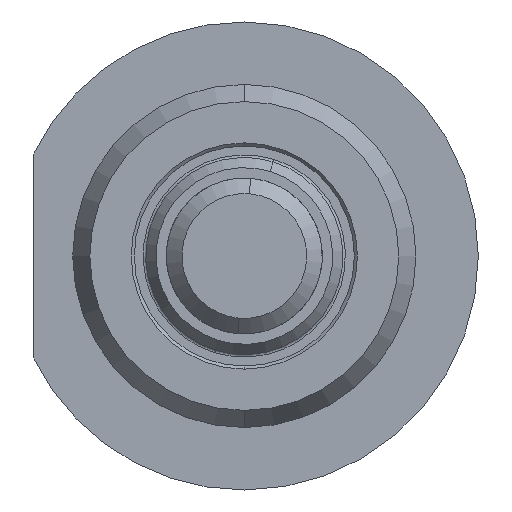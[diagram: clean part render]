
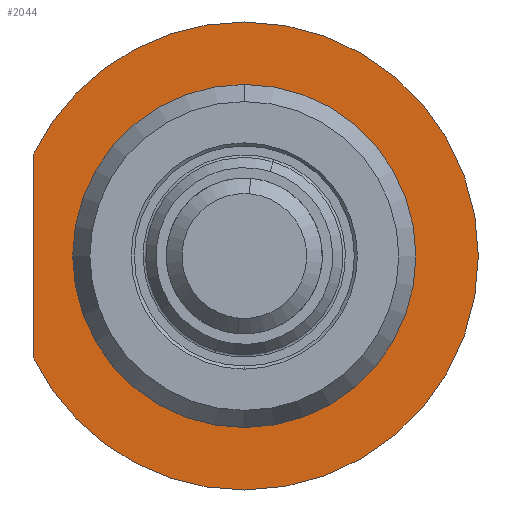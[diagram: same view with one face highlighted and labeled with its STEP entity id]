
A CAD part, left-side view. The second image highlights one B-rep face of the part: STEP entity #2044.
In plain terms, the highlighted planar face has unit normal (-1, 0, 0).
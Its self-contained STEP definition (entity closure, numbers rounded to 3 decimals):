
#182 = CARTESIAN_POINT ( 'NONE',  ( 22., 0., 0. ) ) ;
#183 = DIRECTION ( 'NONE',  ( -1., 0., 0. ) ) ;
#184 = DIRECTION ( 'NONE',  ( 0., 0., -1. ) ) ;
#446 = EDGE_LOOP ( 'NONE', ( #680, #681, #682, #683 ) ) ;
#448 = EDGE_LOOP ( 'NONE', ( #678, #679 ) ) ;
#517 = CIRCLE ( 'NONE', #2990, 11. ) ;
#520 = LINE ( 'NONE', #3565, #524 ) ;
#524 = VECTOR ( 'NONE', #3556, 1000. ) ;
#533 = CIRCLE ( 'NONE', #2993, 15. ) ;
#678 = ORIENTED_EDGE ( 'NONE', *, *, #831, .F. ) ;
#679 = ORIENTED_EDGE ( 'NONE', *, *, #884, .F. ) ;
#680 = ORIENTED_EDGE ( 'NONE', *, *, #834, .F. ) ;
#681 = ORIENTED_EDGE ( 'NONE', *, *, #2806, .T. ) ;
#682 = ORIENTED_EDGE ( 'NONE', *, *, #875, .T. ) ;
#683 = ORIENTED_EDGE ( 'NONE', *, *, #840, .T. ) ;
#764 = VERTEX_POINT ( 'NONE', #3646 ) ;
#809 = VERTEX_POINT ( 'NONE', #3592 ) ;
#811 = VERTEX_POINT ( 'NONE', #3589 ) ;
#817 = VERTEX_POINT ( 'NONE', #3578 ) ;
#818 = VERTEX_POINT ( 'NONE', #3576 ) ;
#831 = EDGE_CURVE ( 'NONE', #809, #811, #517, .T. ) ;
#834 = EDGE_CURVE ( 'NONE', #817, #764, #520, .T. ) ;
#840 = EDGE_CURVE ( 'NONE', #1195, #764, #533, .T. ) ;
#875 = EDGE_CURVE ( 'NONE', #818, #1195, #1554, .T. ) ;
#884 = EDGE_CURVE ( 'NONE', #811, #809, #1567, .T. ) ;
#985 = CARTESIAN_POINT ( 'NONE',  ( 22., 0., 0. ) ) ;
#986 = DIRECTION ( 'NONE',  ( -1., 0., 0. ) ) ;
#987 = DIRECTION ( 'NONE',  ( 0., 0., -1. ) ) ;
#1012 = CARTESIAN_POINT ( 'NONE',  ( 22., 0., 0. ) ) ;
#1013 = DIRECTION ( 'NONE',  ( -1., 0., 0. ) ) ;
#1014 = DIRECTION ( 'NONE',  ( 0., 0., 1. ) ) ;
#1179 = CARTESIAN_POINT ( 'NONE',  ( 22., 0., 15. ) ) ;
#1195 = VERTEX_POINT ( 'NONE', #1179 ) ;
#1261 = CIRCLE ( 'NONE', #3164, 15. ) ;
#1554 = CIRCLE ( 'NONE', #3015, 15. ) ;
#1567 = CIRCLE ( 'NONE', #3019, 11. ) ;
#1683 = FACE_BOUND ( 'NONE', #448, .T. ) ;
#1686 = FACE_OUTER_BOUND ( 'NONE', #446, .T. ) ;
#2044 = ADVANCED_FACE ( 'NONE', ( #1683, #1686 ), #2179, .F. ) ;
#2171 = CARTESIAN_POINT ( 'NONE',  ( 22., -11., 0. ) ) ;
#2179 = PLANE ( 'NONE',  #3069 ) ;
#2181 = DIRECTION ( 'NONE',  ( 1., 0., 0. ) ) ;
#2182 = DIRECTION ( 'NONE',  ( 0., 0., -1. ) ) ;
#2757 = DIRECTION ( 'NONE',  ( 0., 0., -1. ) ) ;
#2758 = CARTESIAN_POINT ( 'NONE',  ( 22., 0., 0. ) ) ;
#2759 = DIRECTION ( 'NONE',  ( -1., 0., 0. ) ) ;
#2806 = EDGE_CURVE ( 'NONE', #817, #818, #1261, .T. ) ;
#2990 = AXIS2_PLACEMENT_3D ( 'NONE', #3569, #3567, #3566 ) ;
#2993 = AXIS2_PLACEMENT_3D ( 'NONE', #2758, #2759, #2757 ) ;
#3015 = AXIS2_PLACEMENT_3D ( 'NONE', #985, #986, #987 ) ;
#3019 = AXIS2_PLACEMENT_3D ( 'NONE', #1012, #1013, #1014 ) ;
#3069 = AXIS2_PLACEMENT_3D ( 'NONE', #2171, #2181, #2182 ) ;
#3164 = AXIS2_PLACEMENT_3D ( 'NONE', #182, #183, #184 ) ;
#3556 = DIRECTION ( 'NONE',  ( 0., 0., 1. ) ) ;
#3565 = CARTESIAN_POINT ( 'NONE',  ( 22., 13.5, 0. ) ) ;
#3566 = DIRECTION ( 'NONE',  ( 0., 0., 1. ) ) ;
#3567 = DIRECTION ( 'NONE',  ( -1., 0., 0. ) ) ;
#3569 = CARTESIAN_POINT ( 'NONE',  ( 22., 0., 0. ) ) ;
#3576 = CARTESIAN_POINT ( 'NONE',  ( 22., 0., -15. ) ) ;
#3578 = CARTESIAN_POINT ( 'NONE',  ( 22., 13.5, -6.538 ) ) ;
#3589 = CARTESIAN_POINT ( 'NONE',  ( 22., 0., 11. ) ) ;
#3592 = CARTESIAN_POINT ( 'NONE',  ( 22., 0., -11. ) ) ;
#3646 = CARTESIAN_POINT ( 'NONE',  ( 22., 13.5, 6.538 ) ) ;
